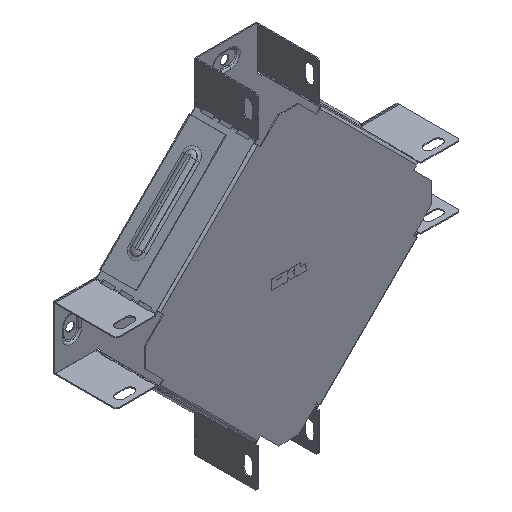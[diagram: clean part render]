
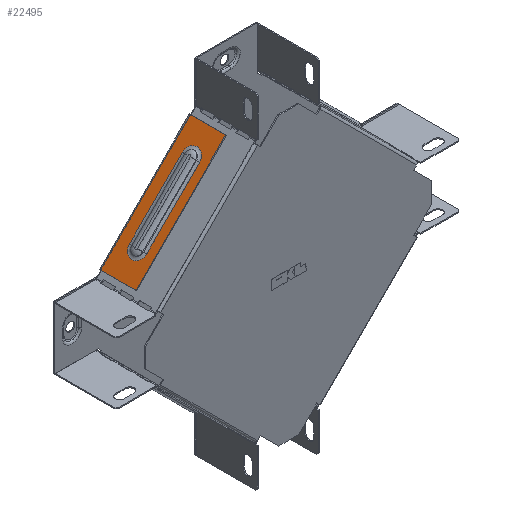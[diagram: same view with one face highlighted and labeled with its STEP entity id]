
A CAD part, isometric view. The second image highlights one B-rep face of the part: STEP entity #22495.
In plain terms, the highlighted planar face has unit normal (-0.707, 0, 0.707).
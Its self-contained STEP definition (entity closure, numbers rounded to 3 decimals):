
#349 = DIRECTION ( 'NONE',  ( 0.707, 0., 0.707 ) ) ;
#651 = CIRCLE ( 'NONE', #12764, 6.917 ) ;
#887 = CARTESIAN_POINT ( 'NONE',  ( -65.588, 50., 65.588 ) ) ;
#915 = EDGE_CURVE ( 'NONE', #13102, #6588, #3514, .T. ) ;
#971 = PLANE ( 'NONE',  #10135 ) ;
#1723 = DIRECTION ( 'NONE',  ( 0.5, 0.707, 0.5 ) ) ;
#2135 = VERTEX_POINT ( 'NONE', #12751 ) ;
#2321 = VERTEX_POINT ( 'NONE', #20052 ) ;
#2707 = CARTESIAN_POINT ( 'NONE',  ( -101.51, 51.099, 29.667 ) ) ;
#3514 = LINE ( 'NONE', #11854, #24401 ) ;
#4301 = EDGE_CURVE ( 'NONE', #2135, #12668, #21691, .T. ) ;
#5187 = CARTESIAN_POINT ( 'NONE',  ( -44.375, 40.017, 86.802 ) ) ;
#5492 = LINE ( 'NONE', #16165, #24884 ) ;
#5707 = VECTOR ( 'NONE', #8420, 1000. ) ;
#6123 = EDGE_LOOP ( 'NONE', ( #13077, #8387, #20723, #7625 ) ) ;
#6308 = ORIENTED_EDGE ( 'NONE', *, *, #4301, .T. ) ;
#6588 = VERTEX_POINT ( 'NONE', #15376 ) ;
#6736 = CARTESIAN_POINT ( 'NONE',  ( -44.375, 33.1, 86.802 ) ) ;
#6793 = DIRECTION ( 'NONE',  ( -0.707, 0., -0.707 ) ) ;
#7094 = VERTEX_POINT ( 'NONE', #11357 ) ;
#7625 = ORIENTED_EDGE ( 'NONE', *, *, #20856, .F. ) ;
#8387 = ORIENTED_EDGE ( 'NONE', *, *, #9452, .T. ) ;
#8420 = DIRECTION ( 'NONE',  ( 0., -1., 0. ) ) ;
#8471 = CARTESIAN_POINT ( 'NONE',  ( -26.838, 48.2, 104.338 ) ) ;
#8623 = DIRECTION ( 'NONE',  ( 0.707, 0., -0.707 ) ) ;
#8987 = EDGE_CURVE ( 'NONE', #12668, #2321, #19803, .T. ) ;
#9452 = EDGE_CURVE ( 'NONE', #23615, #13102, #5492, .T. ) ;
#10135 = AXIS2_PLACEMENT_3D ( 'NONE', #887, #18510, #6793 ) ;
#10679 = CARTESIAN_POINT ( 'NONE',  ( -29.667, 20., 101.51 ) ) ;
#10947 = CARTESIAN_POINT ( 'NONE',  ( -86.802, 40.017, 44.375 ) ) ;
#11357 = CARTESIAN_POINT ( 'NONE',  ( -101.51, 48.2, 29.667 ) ) ;
#11359 = DIRECTION ( 'NONE',  ( 0.707, 0., -0.707 ) ) ;
#11854 = CARTESIAN_POINT ( 'NONE',  ( -29.667, 50., 101.51 ) ) ;
#12529 = DIRECTION ( 'NONE',  ( 0.5, 0.707, 0.5 ) ) ;
#12653 = LINE ( 'NONE', #5187, #16004 ) ;
#12668 = VERTEX_POINT ( 'NONE', #24917 ) ;
#12751 = CARTESIAN_POINT ( 'NONE',  ( -44.375, 40.017, 86.802 ) ) ;
#12764 = AXIS2_PLACEMENT_3D ( 'NONE', #23035, #11359, #1723 ) ;
#13077 = ORIENTED_EDGE ( 'NONE', *, *, #18206, .T. ) ;
#13102 = VERTEX_POINT ( 'NONE', #10679 ) ;
#13316 = LINE ( 'NONE', #2707, #5707 ) ;
#13799 = DIRECTION ( 'NONE',  ( 0., 1., 0. ) ) ;
#14644 = VECTOR ( 'NONE', #22202, 1000. ) ;
#15015 = VECTOR ( 'NONE', #349, 1000. ) ;
#15376 = CARTESIAN_POINT ( 'NONE',  ( -29.667, 48.2, 101.51 ) ) ;
#15527 = ORIENTED_EDGE ( 'NONE', *, *, #22620, .T. ) ;
#16004 = VECTOR ( 'NONE', #19093, 1000. ) ;
#16165 = CARTESIAN_POINT ( 'NONE',  ( -65.588, 20., 65.588 ) ) ;
#16175 = ORIENTED_EDGE ( 'NONE', *, *, #8987, .T. ) ;
#18188 = DIRECTION ( 'NONE',  ( 0.707, 0., 0.707 ) ) ;
#18206 = EDGE_CURVE ( 'NONE', #7094, #23615, #13316, .T. ) ;
#18510 = DIRECTION ( 'NONE',  ( 0.707, 0., -0.707 ) ) ;
#19093 = DIRECTION ( 'NONE',  ( 0.707, 0., 0.707 ) ) ;
#19803 = LINE ( 'NONE', #20038, #14644 ) ;
#20038 = CARTESIAN_POINT ( 'NONE',  ( -44.375, 26.183, 86.802 ) ) ;
#20052 = CARTESIAN_POINT ( 'NONE',  ( -86.802, 26.183, 44.375 ) ) ;
#20463 = VERTEX_POINT ( 'NONE', #10947 ) ;
#20598 = AXIS2_PLACEMENT_3D ( 'NONE', #6736, #8623, #12529 ) ;
#20723 = ORIENTED_EDGE ( 'NONE', *, *, #915, .T. ) ;
#20759 = LINE ( 'NONE', #8471, #15015 ) ;
#20856 = EDGE_CURVE ( 'NONE', #7094, #6588, #20759, .T. ) ;
#21425 = FACE_OUTER_BOUND ( 'NONE', #6123, .T. ) ;
#21691 = CIRCLE ( 'NONE', #20598, 6.917 ) ;
#22202 = DIRECTION ( 'NONE',  ( -0.707, 0., -0.707 ) ) ;
#22495 = ADVANCED_FACE ( 'NONE', ( #24468, #21425 ), #971, .F. ) ;
#22589 = ORIENTED_EDGE ( 'NONE', *, *, #24297, .T. ) ;
#22620 = EDGE_CURVE ( 'NONE', #20463, #2135, #12653, .T. ) ;
#22920 = EDGE_LOOP ( 'NONE', ( #15527, #6308, #16175, #22589 ) ) ;
#23035 = CARTESIAN_POINT ( 'NONE',  ( -86.802, 33.1, 44.375 ) ) ;
#23147 = CARTESIAN_POINT ( 'NONE',  ( -101.51, 20., 29.667 ) ) ;
#23615 = VERTEX_POINT ( 'NONE', #23147 ) ;
#24297 = EDGE_CURVE ( 'NONE', #2321, #20463, #651, .T. ) ;
#24401 = VECTOR ( 'NONE', #13799, 1000. ) ;
#24468 = FACE_BOUND ( 'NONE', #22920, .T. ) ;
#24884 = VECTOR ( 'NONE', #18188, 1000. ) ;
#24917 = CARTESIAN_POINT ( 'NONE',  ( -44.375, 26.183, 86.802 ) ) ;
